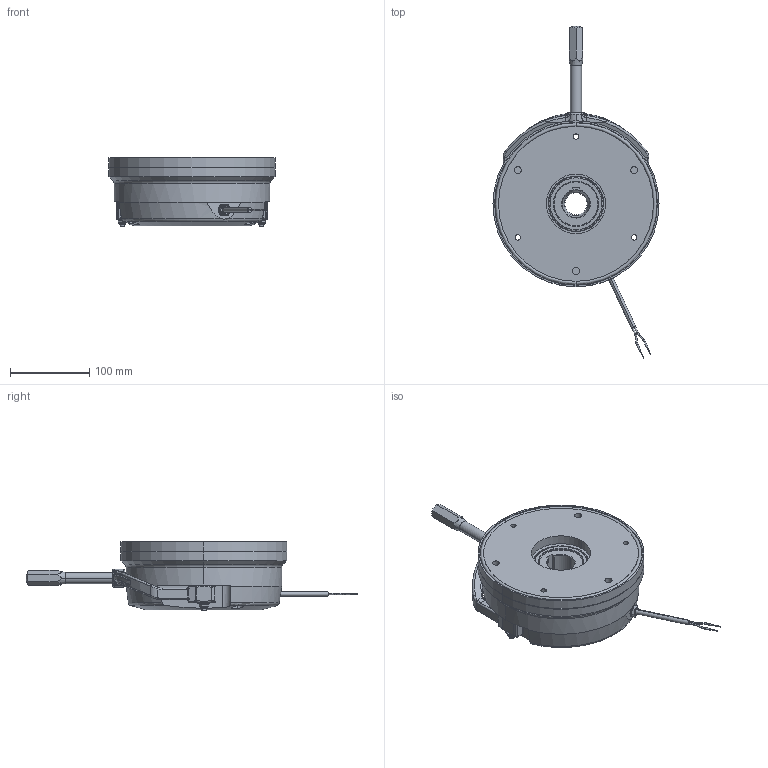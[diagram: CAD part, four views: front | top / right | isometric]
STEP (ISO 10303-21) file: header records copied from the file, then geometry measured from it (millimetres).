
FILE_DESCRIPTION (( 'STEP AP214' ), '1' );
FILE_NAME ('dr_bk_0728-hftw_mu.STEP', '2021-11-26T07:52:09', ( '' ), ( '' ), 'SwSTEP 2.0', 'SolidWorks 2019', '' );
FILE_SCHEMA (( 'AUTOMOTIVE_DESIGN' ));
Length unit declared in the file: millimetre
Products named in the file (11): 10069400_000; 10069403_000; 10069401_000_A 45 x 62 x 8; 10068447_000_07.08.540-G352 Nabe; 10068645_000_Eingebaut Abstand 3,5mm; dr_bk_0728-hftw_mu; 10068448_000; 10068446_000; 10068645_000; 10068445_000; 10069399_000
Assembly tree (12 placements, depth 2):
  dr_bk_0728-hftw_mu
    10069400_000
    10068445_000
    10068446_000  x3
    10068645_000_Eingebaut Abstand 3,5mm
    10068448_000
    10068447_000_07.08.540-G352 Nabe
    10069401_000_A 45 x 62 x 8
    10069399_000
    10069403_000
    10068645_000
Bounding box: 210 x 419.91 x 87.6 mm (x, y, z)
Volume: 2247532 mm3; surface area: 452967.1 mm2
Topology: 31 solids, 31 shells, 1706 faces, 4198 edges, 2571 vertices
Faces by surface type: cylinder 507, plane 417, bspline 313, cone 230, torus 226, sphere 13
Entity records: 74159 total; most frequent: CARTESIAN_POINT 28471, ORIENTED_EDGE 8148, DIRECTION 7201, EDGE_CURVE 4074, AXIS2_PLACEMENT_3D 2979, VERTEX_POINT 2523, EDGE_LOOP 1817, ADVANCED_FACE 1672
